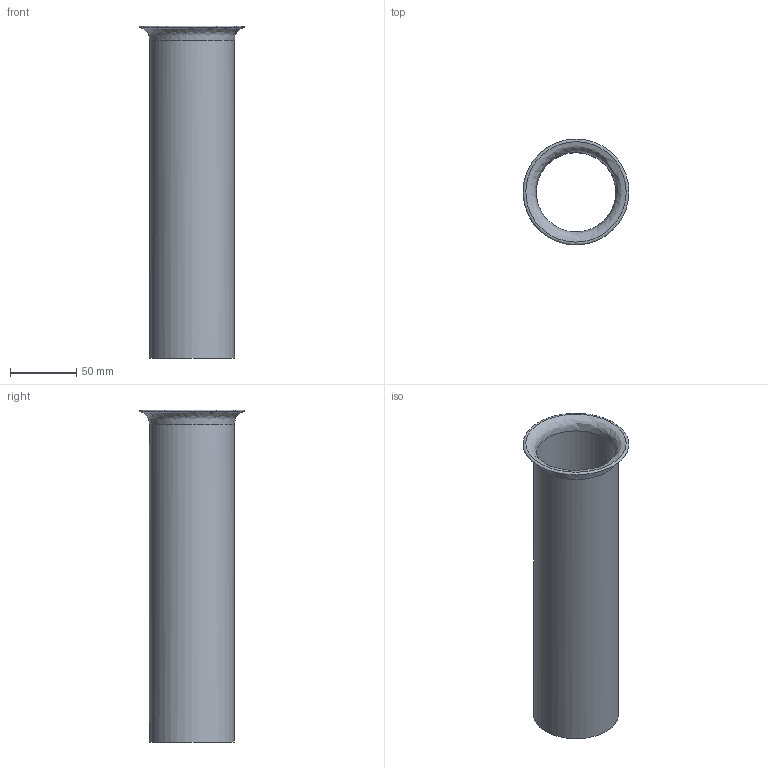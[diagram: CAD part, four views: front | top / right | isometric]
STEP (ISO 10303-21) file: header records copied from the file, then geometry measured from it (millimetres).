
FILE_DESCRIPTION(/* description */ ('STEP AP242 Edition 2','CAx-IF Rec.Pracs.---Representation and Presentation of Product Manufacturing Information (PMI)---4.0---2014-10-13','CAx-IF Rec.Pracs.---3D Tessellated Geometry---0.4---2014-09-14','2;1','CAx-IF Rec.Pracs.---User Defined Attributes---1.5---2016-08-15'),/* implementation_level */ '2;1');
FILE_NAME(/* name */ '693e1f9f3100820afeb07643',/* time_stamp */ '2025-12-14T02:23:28Z',/* author */ (''),/* organization */ (''),/* preprocessor_version */ 'ST-DEVELOPER v20',/* originating_system */ 'ONSHAPE BY PTC INC, 1.208',/* authorisation */ ' ');
FILE_SCHEMA (('AP242_MANAGED_MODEL_BASED_3D_ENGINEERING_MIM_LF { 1 0 10303 442 3 1 4 }'));
Length unit declared in the file: metre
Products named in the file (1): Port extension 65mm
Bounding box: 79.72 x 79.68 x 249.93 mm (x, y, z)
Volume: 99462.7 mm3; surface area: 100245.3 mm2
Topology: 1 solids, 1 shells, 6 faces, 13 edges, 8 vertices
Faces by surface type: bspline 3, cylinder 2, plane 1
Full cylindrical faces by diameter (mm): 60 x1, 64 x1
Entity records: 3599 total; most frequent: CARTESIAN_POINT 3489, ORIENTED_EDGE 12, EDGE_LOOP 12, FACE_BOUND 12, DIRECTION 12, EDGE_CURVE 6, VERTEX_POINT 6, ADVANCED_FACE 6
